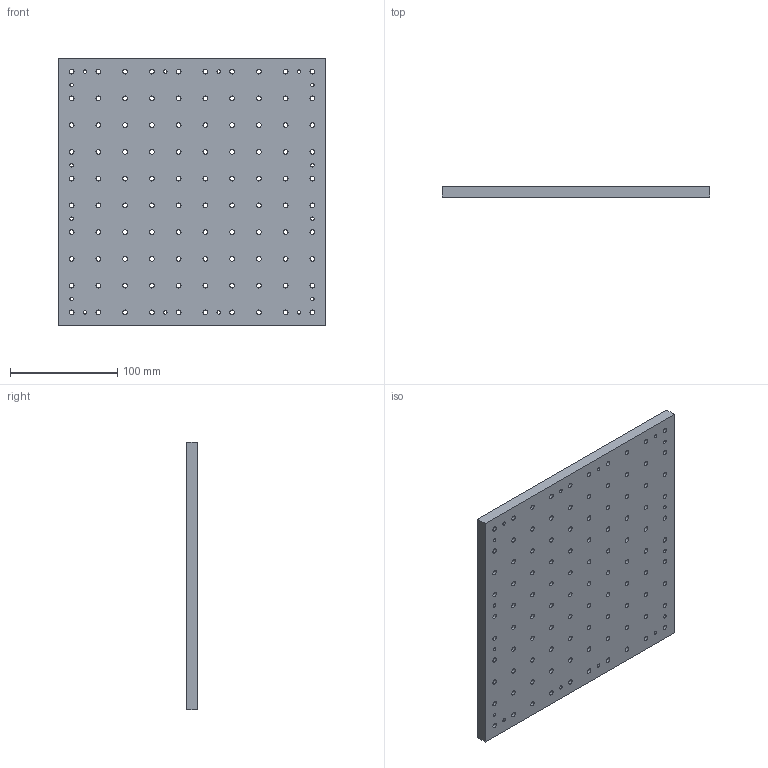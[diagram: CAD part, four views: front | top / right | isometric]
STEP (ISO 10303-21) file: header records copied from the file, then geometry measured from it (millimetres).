
FILE_DESCRIPTION(/* description */ (''),/* implementation_level */ '2;1');
FILE_NAME(/* name */ 'c-10x10-complete.stp',/* time_stamp */ '2026-04-29T11:40:55+08:00',/* author */ ('32769'),/* organization */ (''),/* preprocessor_version */ 'ST-DEVELOPER v20',/* originating_system */ 'Autodesk Inventor 2025',/* authorisation */ '');
FILE_SCHEMA (('AUTOMOTIVE_DESIGN { 1 0 10303 214 3 1 1 }'));
Length unit declared in the file: millimetre
Products named in the file (1): c-10x10-complete
Bounding box: 250 x 10 x 250 mm (x, y, z)
Volume: 607727.2 mm3; surface area: 147341.4 mm2
Topology: 1 solids, 1 shells, 122 faces, 360 edges, 240 vertices
Faces by surface type: cylinder 116, plane 6
Full cylindrical faces by diameter (mm): 3.3 x16, 4.5 x100
Entity records: 4723 total; most frequent: DIRECTION 838, CARTESIAN_POINT 723, ORIENTED_EDGE 720, EDGE_CURVE 360, AXIS2_PLACEMENT_3D 355, EDGE_LOOP 354, VERTEX_POINT 240, FACE_BOUND 232
